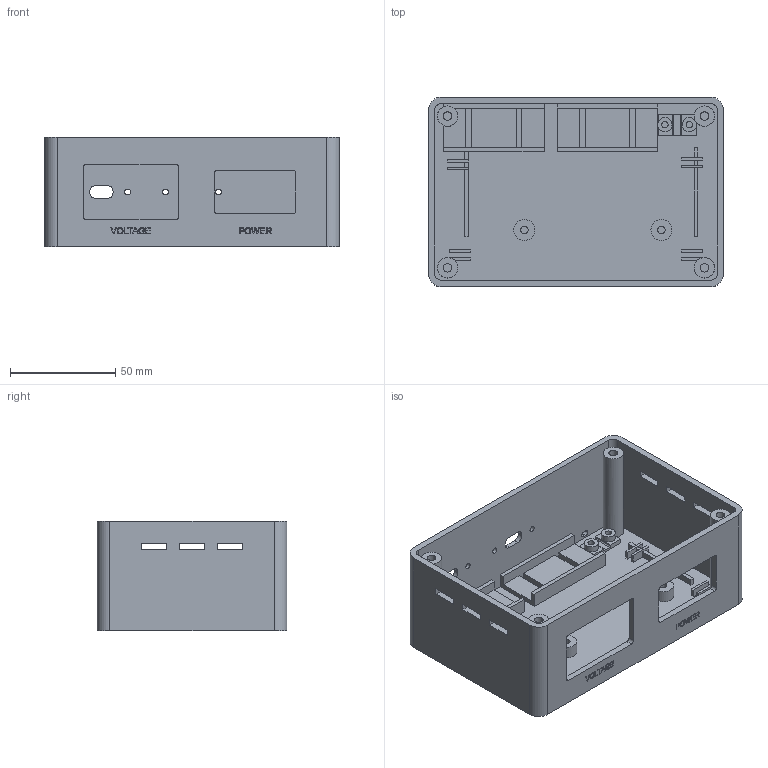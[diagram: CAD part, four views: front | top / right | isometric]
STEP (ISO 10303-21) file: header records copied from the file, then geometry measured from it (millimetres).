
FILE_DESCRIPTION(('Open CASCADE Model'),'2;1');
FILE_NAME('Open CASCADE Shape Model','2026-07-22T14:49:13',('Author'),( 'Open CASCADE'),'Open CASCADE STEP processor 7.9','Open CASCADE 7.9' ,'Unknown');
FILE_SCHEMA(('AUTOMOTIVE_DESIGN { 1 0 10303 214 1 1 1 1 }'));
Length unit declared in the file: millimetre
Products named in the file (1): Open CASCADE STEP translator 7.9 1
Bounding box: 140 x 90 x 52 mm (x, y, z)
Volume: 117472.8 mm3; surface area: 77423.6 mm2
Topology: 1 solids, 1 shells, 799 faces, 2190 edges, 1460 vertices
Faces by surface type: plane 522, extrusion 217, cylinder 60
Full cylindrical faces by diameter (mm): 2.8 x4, 3.1 x2, 3.6 x2, 4.1 x4, 6.8 x2, 9.6 x4, 10 x2
Entity records: 56660 total; most frequent: CARTESIAN_POINT 16278, DIRECTION 5994, VECTOR 4482, ORIENTED_EDGE 4380, PCURVE 4380, DEFINITIONAL_REPRESENTATION 4380, LINE 4265, B_SPLINE_CURVE_WITH_KNOTS 2252
